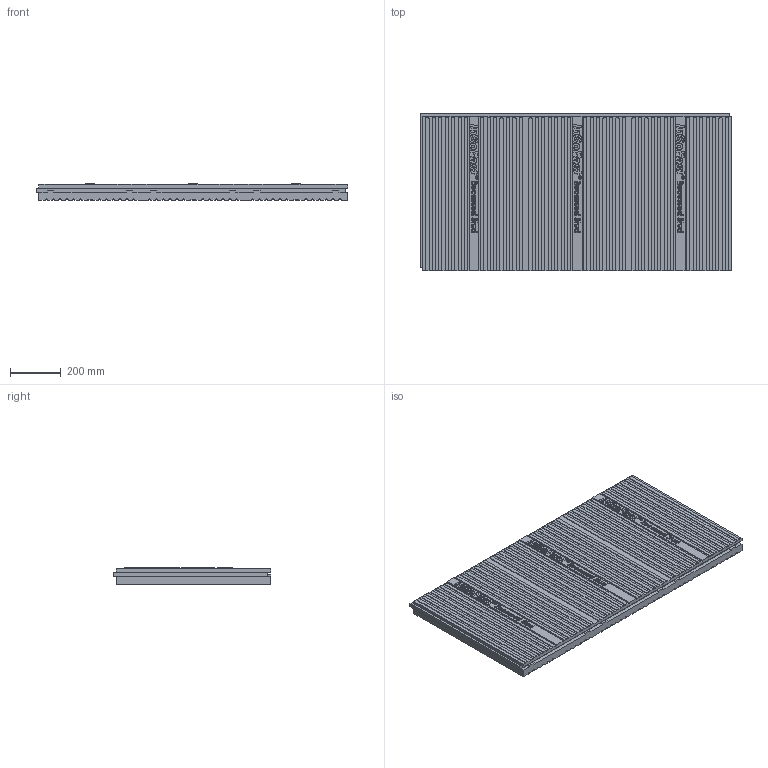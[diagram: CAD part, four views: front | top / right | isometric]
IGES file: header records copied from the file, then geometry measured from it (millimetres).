
Start section: SolidWorks IGES file using analytic representation for surfaces
Global section: file name: E:\Local CAD Details\CloudStation\Andys Working Files\Panels\Website files\EXE\EXE Website.IGS; native system: SolidWorks 2020; preprocessor: SolidWorks 2020; author: Andy; date: 200616.155716; units: inch
Bounding box: 1228.72 x 622.3 x 64.52 mm (x, y, z)
Surface area: 2181863.4 mm2 (no closed solid volume)
Topology: 0 solids, 0 shells, 1308 faces, 22699 edges, 22699 vertices
Faces by surface type: bspline 1218, revolution 90
